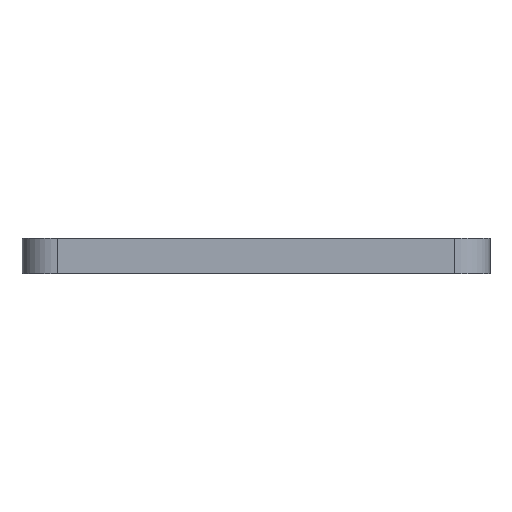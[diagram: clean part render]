
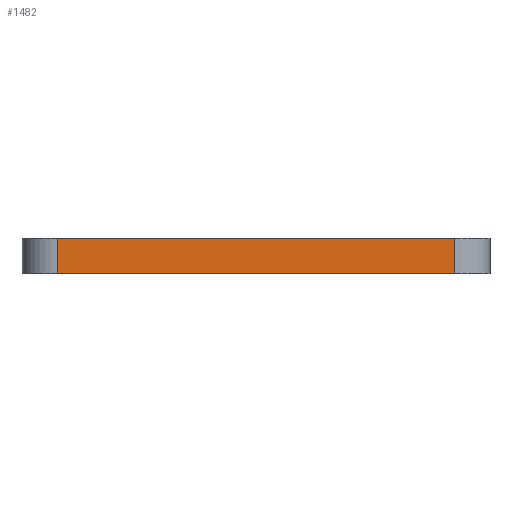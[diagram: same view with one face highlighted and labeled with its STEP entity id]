
A CAD part, left-side view. The second image highlights one B-rep face of the part: STEP entity #1482.
In plain terms, the highlighted planar face has unit normal (-1, 0, 0).
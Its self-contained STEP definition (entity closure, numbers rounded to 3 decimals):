
#44 = PLANE('',#45);
#45 = AXIS2_PLACEMENT_3D('',#46,#47,#48);
#46 = CARTESIAN_POINT('',(0.,0.,0.));
#47 = DIRECTION('',(0.,0.,1.));
#48 = DIRECTION('',(1.,0.,-0.));
#72 = CYLINDRICAL_SURFACE('',#73,3.);
#73 = AXIS2_PLACEMENT_3D('',#74,#75,#76);
#74 = CARTESIAN_POINT('',(-30.,-17.,0.));
#75 = DIRECTION('',(0.,0.,1.));
#76 = DIRECTION('',(0.,-1.,0.));
#100 = PLANE('',#101);
#101 = AXIS2_PLACEMENT_3D('',#102,#103,#104);
#102 = CARTESIAN_POINT('',(0.,0.,3.));
#103 = DIRECTION('',(0.,0.,1.));
#104 = DIRECTION('',(1.,0.,-0.));
#252 = VERTEX_POINT('',#253);
#253 = CARTESIAN_POINT('',(-33.,17.,0.));
#268 = CYLINDRICAL_SURFACE('',#269,3.);
#269 = AXIS2_PLACEMENT_3D('',#270,#271,#272);
#270 = CARTESIAN_POINT('',(-30.,17.,0.));
#271 = DIRECTION('',(0.,0.,1.));
#272 = DIRECTION('',(-0.,1.,0.));
#280 = EDGE_CURVE('',#252,#281,#283,.T.);
#281 = VERTEX_POINT('',#282);
#282 = CARTESIAN_POINT('',(-33.,-17.,0.));
#283 = SURFACE_CURVE('',#284,(#288,#295),.PCURVE_S1.);
#284 = LINE('',#285,#286);
#285 = CARTESIAN_POINT('',(-33.,20.,0.));
#286 = VECTOR('',#287,1.);
#287 = DIRECTION('',(0.,-1.,0.));
#288 = PCURVE('',#44,#289);
#289 = DEFINITIONAL_REPRESENTATION('',(#290),#294);
#290 = LINE('',#291,#292);
#291 = CARTESIAN_POINT('',(-33.,20.));
#292 = VECTOR('',#293,1.);
#293 = DIRECTION('',(0.,-1.));
#294 = ( GEOMETRIC_REPRESENTATION_CONTEXT(2) 
PARAMETRIC_REPRESENTATION_CONTEXT() REPRESENTATION_CONTEXT('2D SPACE',''
  ) );
#295 = PCURVE('',#296,#301);
#296 = PLANE('',#297);
#297 = AXIS2_PLACEMENT_3D('',#298,#299,#300);
#298 = CARTESIAN_POINT('',(-33.,20.,0.));
#299 = DIRECTION('',(1.,0.,-0.));
#300 = DIRECTION('',(0.,-1.,0.));
#301 = DEFINITIONAL_REPRESENTATION('',(#302),#306);
#302 = LINE('',#303,#304);
#303 = CARTESIAN_POINT('',(0.,0.));
#304 = VECTOR('',#305,1.);
#305 = DIRECTION('',(1.,0.));
#306 = ( GEOMETRIC_REPRESENTATION_CONTEXT(2) 
PARAMETRIC_REPRESENTATION_CONTEXT() REPRESENTATION_CONTEXT('2D SPACE',''
  ) );
#840 = EDGE_CURVE('',#281,#841,#843,.T.);
#841 = VERTEX_POINT('',#842);
#842 = CARTESIAN_POINT('',(-33.,-17.,3.));
#843 = SURFACE_CURVE('',#844,(#848,#855),.PCURVE_S1.);
#844 = LINE('',#845,#846);
#845 = CARTESIAN_POINT('',(-33.,-17.,0.));
#846 = VECTOR('',#847,1.);
#847 = DIRECTION('',(0.,0.,1.));
#848 = PCURVE('',#72,#849);
#849 = DEFINITIONAL_REPRESENTATION('',(#850),#854);
#850 = LINE('',#851,#852);
#851 = CARTESIAN_POINT('',(-1.571,0.));
#852 = VECTOR('',#853,1.);
#853 = DIRECTION('',(-0.,1.));
#854 = ( GEOMETRIC_REPRESENTATION_CONTEXT(2) 
PARAMETRIC_REPRESENTATION_CONTEXT() REPRESENTATION_CONTEXT('2D SPACE',''
  ) );
#855 = PCURVE('',#296,#856);
#856 = DEFINITIONAL_REPRESENTATION('',(#857),#861);
#857 = LINE('',#858,#859);
#858 = CARTESIAN_POINT('',(37.,0.));
#859 = VECTOR('',#860,1.);
#860 = DIRECTION('',(0.,-1.));
#861 = ( GEOMETRIC_REPRESENTATION_CONTEXT(2) 
PARAMETRIC_REPRESENTATION_CONTEXT() REPRESENTATION_CONTEXT('2D SPACE',''
  ) );
#1016 = VERTEX_POINT('',#1017);
#1017 = CARTESIAN_POINT('',(-33.,17.,3.));
#1039 = EDGE_CURVE('',#1016,#841,#1040,.T.);
#1040 = SURFACE_CURVE('',#1041,(#1045,#1052),.PCURVE_S1.);
#1041 = LINE('',#1042,#1043);
#1042 = CARTESIAN_POINT('',(-33.,20.,3.));
#1043 = VECTOR('',#1044,1.);
#1044 = DIRECTION('',(0.,-1.,0.));
#1045 = PCURVE('',#100,#1046);
#1046 = DEFINITIONAL_REPRESENTATION('',(#1047),#1051);
#1047 = LINE('',#1048,#1049);
#1048 = CARTESIAN_POINT('',(-33.,20.));
#1049 = VECTOR('',#1050,1.);
#1050 = DIRECTION('',(0.,-1.));
#1051 = ( GEOMETRIC_REPRESENTATION_CONTEXT(2) 
PARAMETRIC_REPRESENTATION_CONTEXT() REPRESENTATION_CONTEXT('2D SPACE',''
  ) );
#1052 = PCURVE('',#296,#1053);
#1053 = DEFINITIONAL_REPRESENTATION('',(#1054),#1058);
#1054 = LINE('',#1055,#1056);
#1055 = CARTESIAN_POINT('',(0.,-3.));
#1056 = VECTOR('',#1057,1.);
#1057 = DIRECTION('',(1.,0.));
#1058 = ( GEOMETRIC_REPRESENTATION_CONTEXT(2) 
PARAMETRIC_REPRESENTATION_CONTEXT() REPRESENTATION_CONTEXT('2D SPACE',''
  ) );
#1482 = ADVANCED_FACE('',(#1483),#296,.F.);
#1483 = FACE_BOUND('',#1484,.F.);
#1484 = EDGE_LOOP('',(#1485,#1486,#1507,#1508));
#1485 = ORIENTED_EDGE('',*,*,#280,.F.);
#1486 = ORIENTED_EDGE('',*,*,#1487,.T.);
#1487 = EDGE_CURVE('',#252,#1016,#1488,.T.);
#1488 = SURFACE_CURVE('',#1489,(#1493,#1500),.PCURVE_S1.);
#1489 = LINE('',#1490,#1491);
#1490 = CARTESIAN_POINT('',(-33.,17.,0.));
#1491 = VECTOR('',#1492,1.);
#1492 = DIRECTION('',(0.,0.,1.));
#1493 = PCURVE('',#296,#1494);
#1494 = DEFINITIONAL_REPRESENTATION('',(#1495),#1499);
#1495 = LINE('',#1496,#1497);
#1496 = CARTESIAN_POINT('',(3.,0.));
#1497 = VECTOR('',#1498,1.);
#1498 = DIRECTION('',(0.,-1.));
#1499 = ( GEOMETRIC_REPRESENTATION_CONTEXT(2) 
PARAMETRIC_REPRESENTATION_CONTEXT() REPRESENTATION_CONTEXT('2D SPACE',''
  ) );
#1500 = PCURVE('',#268,#1501);
#1501 = DEFINITIONAL_REPRESENTATION('',(#1502),#1506);
#1502 = LINE('',#1503,#1504);
#1503 = CARTESIAN_POINT('',(1.571,0.));
#1504 = VECTOR('',#1505,1.);
#1505 = DIRECTION('',(0.,1.));
#1506 = ( GEOMETRIC_REPRESENTATION_CONTEXT(2) 
PARAMETRIC_REPRESENTATION_CONTEXT() REPRESENTATION_CONTEXT('2D SPACE',''
  ) );
#1507 = ORIENTED_EDGE('',*,*,#1039,.T.);
#1508 = ORIENTED_EDGE('',*,*,#840,.F.);
